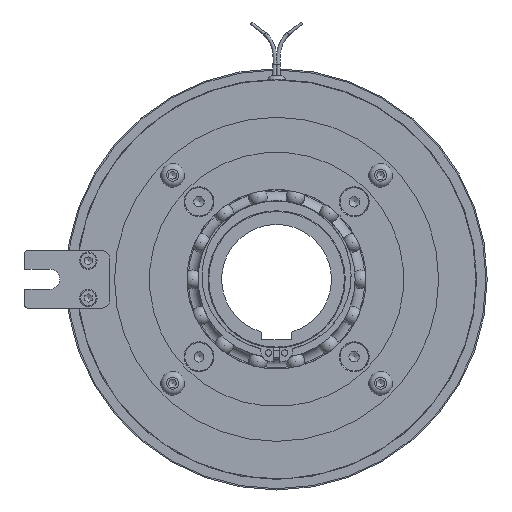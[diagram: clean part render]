
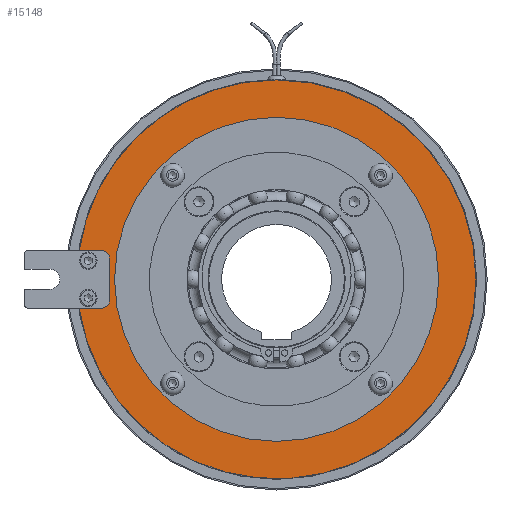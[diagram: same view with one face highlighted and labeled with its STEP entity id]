
A CAD part, left-side view. The second image highlights one B-rep face of the part: STEP entity #15148.
In plain terms, the highlighted planar face has unit normal (-1, 0, 0).
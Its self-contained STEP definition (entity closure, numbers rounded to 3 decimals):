
#544=FACE_BOUND('',#2766,.T.);
#831=PLANE('',#16821);
#1857=FACE_OUTER_BOUND('',#2765,.T.);
#2765=EDGE_LOOP('',(#12664,#12665,#12666,#12667,#12668,#12669,#12670,#12671));
#2766=EDGE_LOOP('',(#12672,#12673));
#3023=CIRCLE('',#15368,80.);
#3026=CIRCLE('',#15371,80.);
#3505=CIRCLE('',#16116,3.);
#3507=CIRCLE('',#16120,3.);
#3907=CIRCLE('',#16791,80.);
#3929=CIRCLE('',#16822,65.);
#3930=CIRCLE('',#16823,65.);
#4344=LINE('',#25934,#4951);
#4354=LINE('',#25962,#4961);
#4366=LINE('',#25992,#4973);
#4951=VECTOR('',#18954,10.);
#4961=VECTOR('',#18980,10.);
#4973=VECTOR('',#19012,10.);
#5387=VERTEX_POINT('',#21794);
#5388=VERTEX_POINT('',#21796);
#5390=VERTEX_POINT('',#21800);
#5391=VERTEX_POINT('',#21802);
#6010=VERTEX_POINT('',#25932);
#6017=VERTEX_POINT('',#25952);
#6020=VERTEX_POINT('',#25960);
#6021=VERTEX_POINT('',#25964);
#6594=VERTEX_POINT('',#27791);
#6595=VERTEX_POINT('',#27792);
#7040=EDGE_CURVE('',#5388,#5387,#3023,.T.);
#7043=EDGE_CURVE('',#5391,#5390,#3026,.T.);
#7901=EDGE_CURVE('',#5390,#6010,#4344,.T.);
#7910=EDGE_CURVE('',#6010,#6017,#3505,.T.);
#7915=EDGE_CURVE('',#6017,#6020,#4354,.T.);
#7916=EDGE_CURVE('',#6020,#6021,#3507,.T.);
#7931=EDGE_CURVE('',#6021,#5388,#4366,.T.);
#8705=EDGE_CURVE('',#5387,#5391,#3907,.T.);
#8732=EDGE_CURVE('',#6594,#6595,#3929,.T.);
#8733=EDGE_CURVE('',#6595,#6594,#3930,.T.);
#12664=ORIENTED_EDGE('',*,*,#7931,.T.);
#12665=ORIENTED_EDGE('',*,*,#7040,.T.);
#12666=ORIENTED_EDGE('',*,*,#8705,.T.);
#12667=ORIENTED_EDGE('',*,*,#7043,.T.);
#12668=ORIENTED_EDGE('',*,*,#7901,.T.);
#12669=ORIENTED_EDGE('',*,*,#7910,.T.);
#12670=ORIENTED_EDGE('',*,*,#7915,.T.);
#12671=ORIENTED_EDGE('',*,*,#7916,.T.);
#12672=ORIENTED_EDGE('',*,*,#8732,.T.);
#12673=ORIENTED_EDGE('',*,*,#8733,.T.);
#15148=ADVANCED_FACE('',(#1857,#544),#831,.T.);
#15368=AXIS2_PLACEMENT_3D('',#21797,#17285,#17286);
#15371=AXIS2_PLACEMENT_3D('',#21803,#17291,#17292);
#16116=AXIS2_PLACEMENT_3D('',#25953,#18971,#18972);
#16120=AXIS2_PLACEMENT_3D('',#25965,#18983,#18984);
#16791=AXIS2_PLACEMENT_3D('',#27735,#20643,#20644);
#16821=AXIS2_PLACEMENT_3D('',#27790,#20708,#20709);
#16822=AXIS2_PLACEMENT_3D('',#27793,#20710,#20711);
#16823=AXIS2_PLACEMENT_3D('',#27794,#20712,#20713);
#17285=DIRECTION('center_axis',(-1.,0.,0.));
#17286=DIRECTION('ref_axis',(0.,1.,0.));
#17291=DIRECTION('center_axis',(-1.,0.,0.));
#17292=DIRECTION('ref_axis',(0.,1.,0.));
#18954=DIRECTION('',(0.,-1.,0.));
#18971=DIRECTION('center_axis',(1.,0.,0.));
#18972=DIRECTION('ref_axis',(0.,-0.707,0.707));
#18980=DIRECTION('',(0.,0.,-1.));
#18983=DIRECTION('center_axis',(1.,0.,0.));
#18984=DIRECTION('ref_axis',(0.,-0.707,-0.707));
#19012=DIRECTION('',(0.,1.,0.));
#20643=DIRECTION('center_axis',(-1.,0.,0.));
#20644=DIRECTION('ref_axis',(0.,1.,0.));
#20708=DIRECTION('center_axis',(-1.,0.,0.));
#20709=DIRECTION('ref_axis',(0.,0.,
1.));
#20710=DIRECTION('center_axis',(1.,0.,0.));
#20711=DIRECTION('ref_axis',(0.,1.,0.));
#20712=DIRECTION('center_axis',(1.,0.,0.));
#20713=DIRECTION('ref_axis',(0.,1.,0.));
#21794=CARTESIAN_POINT('',(-45.,-80.,0.));
#21796=CARTESIAN_POINT('',(-45.,79.169,-11.5));
#21797=CARTESIAN_POINT('Origin',(-45.,0.,
0.));
#21800=CARTESIAN_POINT('',(-45.,79.169,11.5));
#21802=CARTESIAN_POINT('',(-45.,0.,80.));
#21803=CARTESIAN_POINT('Origin',(-45.,0.,
0.));
#25932=CARTESIAN_POINT('',(-45.,70.,11.5));
#25934=CARTESIAN_POINT('',(-45.,67.25,11.5));
#25952=CARTESIAN_POINT('',(-45.,67.,8.5));
#25953=CARTESIAN_POINT('Origin',(-45.,70.,8.5));
#25960=CARTESIAN_POINT('',(-45.,67.,-8.5));
#25962=CARTESIAN_POINT('',(-45.,67.,-5.75));
#25964=CARTESIAN_POINT('',(-45.,70.,-11.5));
#25965=CARTESIAN_POINT('Origin',(-45.,70.,-8.5));
#25992=CARTESIAN_POINT('',(-45.,84.25,-11.5));
#27735=CARTESIAN_POINT('Origin',(-45.,0.,
0.));
#27790=CARTESIAN_POINT('Origin',(-45.,67.5,0.));
#27791=CARTESIAN_POINT('',(-45.,65.,0.));
#27792=CARTESIAN_POINT('',(-45.,-65.,0.));
#27793=CARTESIAN_POINT('Origin',(-45.,0.,
0.));
#27794=CARTESIAN_POINT('Origin',(-45.,0.,
0.));
